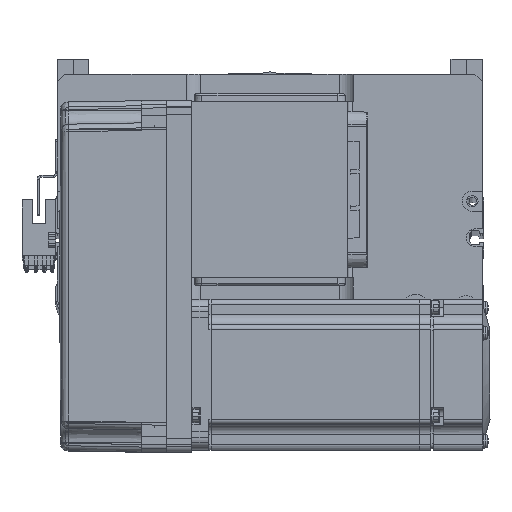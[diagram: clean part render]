
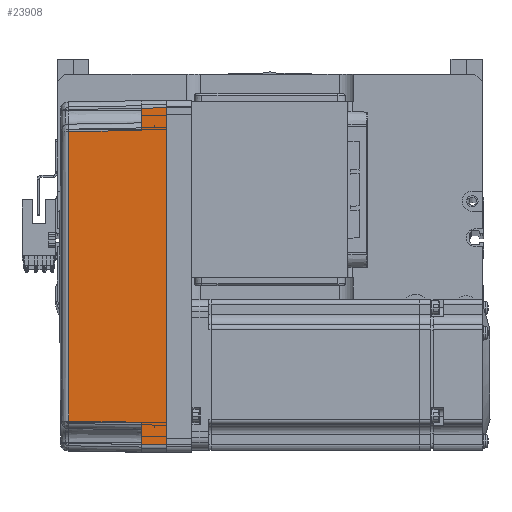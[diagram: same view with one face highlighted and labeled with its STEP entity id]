
A CAD part, top view. The second image highlights one B-rep face of the part: STEP entity #23908.
In plain terms, the highlighted planar face has unit normal (-0.018, 0, 1) as drawn and (0, -1, 0.017) by its records, which use the part's own axes.
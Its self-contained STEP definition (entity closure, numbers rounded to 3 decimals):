
#167 = CARTESIAN_POINT ( 'NONE',  ( 58., -35.825, 10. ) ) ;
#2974 = VECTOR ( 'NONE', #23556, 1000. ) ;
#2995 = EDGE_CURVE ( 'NONE', #12771, #58233, #38635, .T. ) ;
#4079 = VECTOR ( 'NONE', #26972, 1000. ) ;
#4746 = DIRECTION ( 'NONE',  ( 0., -0.017, -1. ) ) ;
#5127 = CARTESIAN_POINT ( 'NONE',  ( -58., -35.825, 10. ) ) ;
#5354 = CARTESIAN_POINT ( 'NONE',  ( 70., -36., 0. ) ) ;
#5977 = CARTESIAN_POINT ( 'NONE',  ( 0., -36., 0. ) ) ;
#7340 = LINE ( 'NONE', #22981, #38172 ) ;
#7418 = LINE ( 'NONE', #5977, #34444 ) ;
#7562 = CARTESIAN_POINT ( 'NONE',  ( 19.165, -35.316, 39.181 ) ) ;
#7967 = LINE ( 'NONE', #15632, #58890 ) ;
#8493 = ORIENTED_EDGE ( 'NONE', *, *, #21305, .T. ) ;
#9892 = ORIENTED_EDGE ( 'NONE', *, *, #50678, .T. ) ;
#12032 = AXIS2_PLACEMENT_3D ( 'NONE', #5354, #58656, #4746 ) ;
#12562 = ORIENTED_EDGE ( 'NONE', *, *, #42923, .F. ) ;
#12605 = VERTEX_POINT ( 'NONE', #5127 ) ;
#12771 = VERTEX_POINT ( 'NONE', #21046 ) ;
#12815 = EDGE_CURVE ( 'NONE', #17888, #19666, #7418, .T. ) ;
#15021 = DIRECTION ( 'NONE',  ( 0.017, 0.017, 1. ) ) ;
#15632 = CARTESIAN_POINT ( 'NONE',  ( -66.959, -35.958, 2.39 ) ) ;
#17043 = EDGE_CURVE ( 'NONE', #50793, #12605, #33417, .T. ) ;
#17066 = CARTESIAN_POINT ( 'NONE',  ( -57.495, -35.32, 38.985 ) ) ;
#17450 = CARTESIAN_POINT ( 'NONE',  ( 57.495, -35.32, 38.985 ) ) ;
#17460 = ORIENTED_EDGE ( 'NONE', *, *, #60298, .T. ) ;
#17888 = VERTEX_POINT ( 'NONE', #35517 ) ;
#18017 = VECTOR ( 'NONE', #48570, 1000. ) ;
#18132 = CARTESIAN_POINT ( 'NONE',  ( 67., -36., 0. ) ) ;
#19666 = VERTEX_POINT ( 'NONE', #23652 ) ;
#21046 = CARTESIAN_POINT ( 'NONE',  ( 66.826, -35.825, 10. ) ) ;
#21305 = EDGE_CURVE ( 'NONE', #39854, #50793, #30982, .T. ) ;
#21774 = ORIENTED_EDGE ( 'NONE', *, *, #17043, .T. ) ;
#22981 = CARTESIAN_POINT ( 'NONE',  ( 70., -35.825, 10. ) ) ;
#23556 = DIRECTION ( 'NONE',  ( -0.017, 0.017, 1. ) ) ;
#23652 = CARTESIAN_POINT ( 'NONE',  ( -67., -36., 0. ) ) ;
#23908 = ADVANCED_FACE ( 'NONE', ( #37201 ), #58861, .T. ) ;
#24340 = CARTESIAN_POINT ( 'NONE',  ( 70., -35.825, 10. ) ) ;
#24672 = ORIENTED_EDGE ( 'NONE', *, *, #12815, .F. ) ;
#25471 = VECTOR ( 'NONE', #54299, 1000. ) ;
#26972 = DIRECTION ( 'NONE',  ( -0.017, -0.017, -1. ) ) ;
#30982 = B_SPLINE_CURVE_WITH_KNOTS ( 'NONE', 3,
 ( #17450, #7562, #51330, #51960 ),
 .UNSPECIFIED., .F., .F.,
 ( 4, 4 ),
 ( 0., 1. ),
 .UNSPECIFIED. ) ;
#33221 = CARTESIAN_POINT ( 'NONE',  ( 57.495, -35.32, 38.985 ) ) ;
#33417 = LINE ( 'NONE', #17066, #4079 ) ;
#34444 = VECTOR ( 'NONE', #54901, 1000. ) ;
#34582 = CARTESIAN_POINT ( 'NONE',  ( -57.495, -35.32, 38.985 ) ) ;
#35517 = CARTESIAN_POINT ( 'NONE',  ( 67., -36., 0. ) ) ;
#37201 = FACE_OUTER_BOUND ( 'NONE', #50358, .T. ) ;
#38172 = VECTOR ( 'NONE', #57492, 1000. ) ;
#38635 = LINE ( 'NONE', #24340, #25471 ) ;
#39854 = VERTEX_POINT ( 'NONE', #33221 ) ;
#42287 = LINE ( 'NONE', #18132, #2974 ) ;
#42923 = EDGE_CURVE ( 'NONE', #19666, #53518, #7967, .T. ) ;
#43128 = ORIENTED_EDGE ( 'NONE', *, *, #2995, .T. ) ;
#44231 = CARTESIAN_POINT ( 'NONE',  ( 58., -35.825, 10. ) ) ;
#46242 = ORIENTED_EDGE ( 'NONE', *, *, #49162, .T. ) ;
#48570 = DIRECTION ( 'NONE',  ( -0.017, 0.017, 1. ) ) ;
#49162 = EDGE_CURVE ( 'NONE', #17888, #12771, #42287, .T. ) ;
#50358 = EDGE_LOOP ( 'NONE', ( #46242, #43128, #17460, #8493, #21774, #9892, #12562, #24672 ) ) ;
#50678 = EDGE_CURVE ( 'NONE', #12605, #53518, #7340, .T. ) ;
#50793 = VERTEX_POINT ( 'NONE', #34582 ) ;
#51330 = CARTESIAN_POINT ( 'NONE',  ( -19.165, -35.316, 39.181 ) ) ;
#51960 = CARTESIAN_POINT ( 'NONE',  ( -57.495, -35.32, 38.985 ) ) ;
#53518 = VERTEX_POINT ( 'NONE', #60592 ) ;
#54299 = DIRECTION ( 'NONE',  ( -1., 0., 0. ) ) ;
#54901 = DIRECTION ( 'NONE',  ( -1., 0., 0. ) ) ;
#55028 = LINE ( 'NONE', #44231, #18017 ) ;
#57492 = DIRECTION ( 'NONE',  ( -1., 0., 0. ) ) ;
#58233 = VERTEX_POINT ( 'NONE', #167 ) ;
#58656 = DIRECTION ( 'NONE',  ( 0., -1., 0.017 ) ) ;
#58861 = PLANE ( 'NONE',  #12032 ) ;
#58890 = VECTOR ( 'NONE', #15021, 1000. ) ;
#60298 = EDGE_CURVE ( 'NONE', #58233, #39854, #55028, .T. ) ;
#60592 = CARTESIAN_POINT ( 'NONE',  ( -66.826, -35.825, 10. ) ) ;
